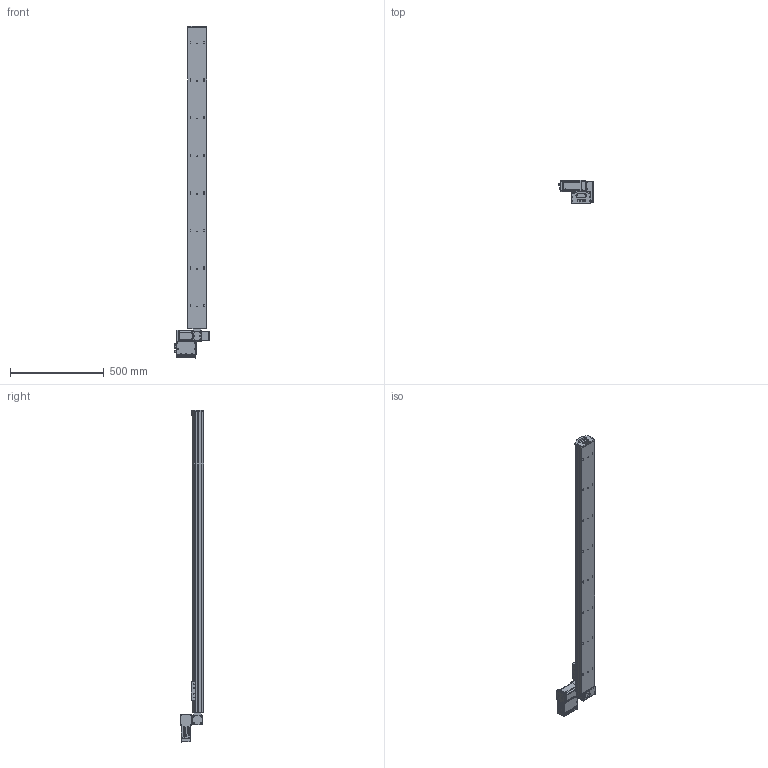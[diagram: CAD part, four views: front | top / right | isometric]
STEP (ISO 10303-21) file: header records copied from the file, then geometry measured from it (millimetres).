
FILE_DESCRIPTION (( 'STEP AP203' ), '1' );
FILE_NAME ('S10 TBN LT S1600.STEP', '2012-06-19T13:00:40', ( 'Conseil Régional Haute-Normandie' ), ( 'Conseil Régional Haute-Normandie' ), 'SwSTEP 2.0', 'SolidWorks 2010', '' );
FILE_SCHEMA (( 'CONFIG_CONTROL_DESIGN' ));
Length unit declared in the file: millimetre
Products named in the file (29): T_X2_00F4_X0_le contre le moteur_5; T_X2_00F4_X0_le fond_3; Couvercle_3; Connecteur rond D10 3cts_5; T_X2_00F4_X0_le Arri_X2_00E8_X0_re_5; T_X2_00F4_X0_le lat_X2_00E9_X0_rale_5; embout; plaque de bout s10_Default; palette tbn; vis M5 L5_Default; axe 1600; S10 TBN LT S1600; Assem1_7; BU41 Carte Alimentation P05_3; Colonnette_3; BU45 Carte d''axe A11_5; Moteur 60BLDC90A_3; Connecteur rond D12 4cts_5; Sub D 9cts 90_X2_00B_X0__3; Radiateur profil_X2_00E9_X0_ 100x25_3; Colonnette ronde_3; Vis TF 3 torkx_1_1; cache t皻e axe_Default; cache t皻e_Default; Cvis M5 L30_Default; Plaque racord_Default; renvoi LH_Default; vis M5 L12_Default; Vis M5 L16-2_Default_1
Assembly tree (62 placements, depth 3):
  S10 TBN LT S1600
    vis M5 L12_Default  x4
    Cvis M5 L30_Default  x2
    Vis M5 L16-2_Default_1  x4
    vis M5 L5_Default  x4
    axe 1600
    plaque de bout s10_Default
    cache t皻e_Default  x2
    Plaque racord_Default
    Assem1_7
      T_X2_00F4_X0_le fond_3
      Sub D 9cts 90_X2_00B_X0__3
      Vis TF 3 torkx_1_1  x21
      BU41 Carte Alimentation P05_3
      Radiateur profil_X2_00E9_X0_ 100x25_3
      Colonnette_3  x2
      Couvercle_3
      Connecteur rond D10 3cts_5  x2
      BU45 Carte d''axe A11_5
      Moteur 60BLDC90A_3
      T_X2_00F4_X0_le contre le moteur_5
      T_X2_00F4_X0_le lat_X2_00E9_X0_rale_5  x2
      Connecteur rond D12 4cts_5
      T_X2_00F4_X0_le Arri_X2_00E8_X0_re_5
      Colonnette ronde_3
    embout
    renvoi LH_Default
    palette tbn
    cache t皻e axe_Default
Bounding box: 189.8 x 127 x 1766.5 mm (x, y, z)
Volume: 9164424.5 mm3; surface area: 1080177.1 mm2
Topology: 61 solids, 61 shells, 2321 faces, 5754 edges, 3707 vertices
Faces by surface type: plane 1102, cylinder 994, cone 182, bspline 40, torus 3
Entity records: 48307 total; most frequent: CARTESIAN_POINT 8712, DIRECTION 7805, ORIENTED_EDGE 7088, EDGE_CURVE 3544, AXIS2_PLACEMENT_3D 2899, VERTEX_POINT 2311, VECTOR 2007, LINE 2007
